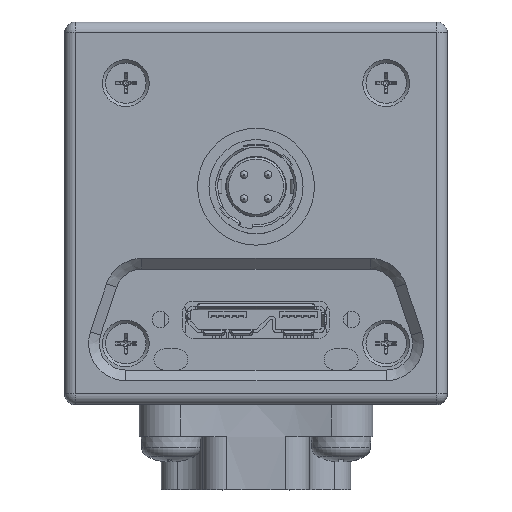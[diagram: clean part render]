
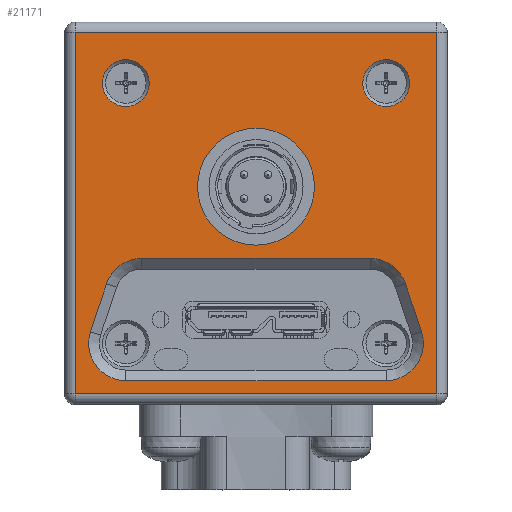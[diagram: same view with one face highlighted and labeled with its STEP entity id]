
A CAD part, top view. The second image highlights one B-rep face of the part: STEP entity #21171.
In plain terms, the highlighted planar face has unit normal (0, 0, 1).
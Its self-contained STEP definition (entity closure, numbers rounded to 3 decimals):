
#704=LINE('',#36027,#2422);
#706=LINE('',#36037,#2424);
#710=LINE('',#36050,#2428);
#714=LINE('',#36056,#2432);
#720=LINE('',#36077,#2438);
#721=LINE('',#36081,#2439);
#722=LINE('',#36085,#2440);
#723=LINE('',#36089,#2441);
#2422=VECTOR('',#26662,10.);
#2424=VECTOR('',#26674,10.);
#2428=VECTOR('',#26690,10.);
#2432=VECTOR('',#26698,10.);
#2438=VECTOR('',#26722,10.);
#2439=VECTOR('',#26725,10.);
#2440=VECTOR('',#26728,10.);
#2441=VECTOR('',#26731,10.);
#4452=FACE_BOUND('',#6275,.T.);
#4453=FACE_BOUND('',#6276,.T.);
#4454=FACE_BOUND('',#6277,.T.);
#4455=FACE_BOUND('',#6278,.T.);
#5014=FACE_OUTER_BOUND('',#6274,.T.);
#6274=EDGE_LOOP('',(#15283,#15284,#15285,#15286));
#6275=EDGE_LOOP('',(#15287));
#6276=EDGE_LOOP('',(#15288));
#6277=EDGE_LOOP('',(#15289));
#6278=EDGE_LOOP('',(#15290,#15291,#15292,#15293,#15294,#15295,#15296,#15297));
#7494=CIRCLE('',#22920,5.5);
#7518=CIRCLE('',#22964,2.2);
#7519=CIRCLE('',#22967,2.2);
#7546=CIRCLE('',#23019,3.5);
#7547=CIRCLE('',#23020,3.5);
#7548=CIRCLE('',#23021,3.5);
#7549=CIRCLE('',#23022,3.5);
#8779=VERTEX_POINT('',#35791);
#8853=VERTEX_POINT('',#35971);
#8854=VERTEX_POINT('',#35975);
#8866=VERTEX_POINT('',#36013);
#8871=VERTEX_POINT('',#36023);
#8872=VERTEX_POINT('',#36030);
#8875=VERTEX_POINT('',#36043);
#8882=VERTEX_POINT('',#36075);
#8883=VERTEX_POINT('',#36076);
#8884=VERTEX_POINT('',#36078);
#8885=VERTEX_POINT('',#36080);
#8886=VERTEX_POINT('',#36082);
#8887=VERTEX_POINT('',#36084);
#8888=VERTEX_POINT('',#36086);
#8889=VERTEX_POINT('',#36088);
#11116=EDGE_CURVE('',#8779,#8779,#7494,.T.);
#11202=EDGE_CURVE('',#8853,#8853,#7518,.T.);
#11203=EDGE_CURVE('',#8854,#8854,#7519,.T.);
#11224=EDGE_CURVE('',#8866,#8871,#704,.T.);
#11229=EDGE_CURVE('',#8872,#8866,#706,.T.);
#11236=EDGE_CURVE('',#8875,#8872,#710,.T.);
#11240=EDGE_CURVE('',#8871,#8875,#714,.T.);
#11250=EDGE_CURVE('',#8882,#8883,#720,.T.);
#11251=EDGE_CURVE('',#8884,#8882,#7546,.T.);
#11252=EDGE_CURVE('',#8885,#8884,#721,.T.);
#11253=EDGE_CURVE('',#8886,#8885,#7547,.T.);
#11254=EDGE_CURVE('',#8887,#8886,#722,.T.);
#11255=EDGE_CURVE('',#8888,#8887,#7548,.T.);
#11256=EDGE_CURVE('',#8889,#8888,#723,.T.);
#11257=EDGE_CURVE('',#8883,#8889,#7549,.T.);
#15283=ORIENTED_EDGE('',*,*,#11224,.F.);
#15284=ORIENTED_EDGE('',*,*,#11229,.F.);
#15285=ORIENTED_EDGE('',*,*,#11236,.F.);
#15286=ORIENTED_EDGE('',*,*,#11240,.F.);
#15287=ORIENTED_EDGE('',*,*,#11116,.T.);
#15288=ORIENTED_EDGE('',*,*,#11202,.T.);
#15289=ORIENTED_EDGE('',*,*,#11203,.T.);
#15290=ORIENTED_EDGE('',*,*,#11250,.F.);
#15291=ORIENTED_EDGE('',*,*,#11251,.F.);
#15292=ORIENTED_EDGE('',*,*,#11252,.F.);
#15293=ORIENTED_EDGE('',*,*,#11253,.F.);
#15294=ORIENTED_EDGE('',*,*,#11254,.F.);
#15295=ORIENTED_EDGE('',*,*,#11255,.F.);
#15296=ORIENTED_EDGE('',*,*,#11256,.F.);
#15297=ORIENTED_EDGE('',*,*,#11257,.F.);
#19239=PLANE('',#23018);
#21171=ADVANCED_FACE('',(#5014,#4452,#4453,#4454,#4455),#19239,.F.);
#22920=AXIS2_PLACEMENT_3D('',#35792,#26442,#26443);
#22964=AXIS2_PLACEMENT_3D('',#35972,#26592,#26593);
#22967=AXIS2_PLACEMENT_3D('',#35976,#26598,#26599);
#23018=AXIS2_PLACEMENT_3D('',#36074,#26720,#26721);
#23019=AXIS2_PLACEMENT_3D('',#36079,#26723,#26724);
#23020=AXIS2_PLACEMENT_3D('',#36083,#26726,#26727);
#23021=AXIS2_PLACEMENT_3D('',#36087,#26729,#26730);
#23022=AXIS2_PLACEMENT_3D('',#36090,#26732,#26733);
#26442=DIRECTION('center_axis',(0.,0.,
-1.));
#26443=DIRECTION('ref_axis',(1.,0.,0.));
#26592=DIRECTION('center_axis',(0.,0.,
-1.));
#26593=DIRECTION('ref_axis',(-1.,0.,0.));
#26598=DIRECTION('center_axis',(0.,0.,
-1.));
#26599=DIRECTION('ref_axis',(-1.,0.,0.));
#26662=DIRECTION('',(-1.,0.,0.));
#26674=DIRECTION('',(0.,-1.,0.));
#26690=DIRECTION('',(1.,0.,0.));
#26698=DIRECTION('',(0.,1.,0.));
#26720=DIRECTION('center_axis',(0.,0.,
-1.));
#26721=DIRECTION('ref_axis',(1.,0.,0.));
#26722=DIRECTION('',(1.,0.,0.));
#26723=DIRECTION('center_axis',(0.,0.,
1.));
#26724=DIRECTION('ref_axis',(-0.949,0.316,0.));
#26725=DIRECTION('',(-0.316,-0.949,0.));
#26726=DIRECTION('center_axis',(0.,0.,
1.));
#26727=DIRECTION('ref_axis',(0.,1.,0.));
#26728=DIRECTION('',(-1.,0.,0.));
#26729=DIRECTION('center_axis',(0.,0.,
1.));
#26730=DIRECTION('ref_axis',(0.949,0.316,0.));
#26731=DIRECTION('',(-0.316,0.949,0.));
#26732=DIRECTION('center_axis',(0.,0.,
1.));
#26733=DIRECTION('ref_axis',(0.,-1.,0.));
#35791=CARTESIAN_POINT('',(5.5,2.5,23.));
#35792=CARTESIAN_POINT('Origin',(0.,2.5,23.));
#35971=CARTESIAN_POINT('',(10.05,12.25,23.));
#35972=CARTESIAN_POINT('Origin',(12.25,12.25,23.));
#35975=CARTESIAN_POINT('',(-14.45,12.25,23.));
#35976=CARTESIAN_POINT('Origin',(-12.25,12.25,23.));
#36013=CARTESIAN_POINT('',(17.,-17.,23.));
#36023=CARTESIAN_POINT('',(-17.,-17.,23.));
#36027=CARTESIAN_POINT('',(-9.,-17.,23.));
#36030=CARTESIAN_POINT('',(17.,17.,23.));
#36037=CARTESIAN_POINT('',(17.,-9.,23.));
#36043=CARTESIAN_POINT('',(-17.,17.,23.));
#36050=CARTESIAN_POINT('',(9.,17.,23.));
#36056=CARTESIAN_POINT('',(-17.,9.,23.));
#36074=CARTESIAN_POINT('Origin',(0.,0.,23.));
#36075=CARTESIAN_POINT('',(-12.25,-15.75,23.));
#36076=CARTESIAN_POINT('',(12.25,-15.75,23.));
#36077=CARTESIAN_POINT('',(0.,-15.75,23.));
#36078=CARTESIAN_POINT('',(-15.57,-11.143,23.));
#36079=CARTESIAN_POINT('Origin',(-12.25,-12.25,23.));
#36080=CARTESIAN_POINT('',(-14.07,-6.643,23.));
#36081=CARTESIAN_POINT('',(-13.12,-3.793,23.));
#36082=CARTESIAN_POINT('',(-10.75,-4.25,23.));
#36083=CARTESIAN_POINT('Origin',(-10.75,-7.75,23.));
#36084=CARTESIAN_POINT('',(10.75,-4.25,23.));
#36085=CARTESIAN_POINT('',(-5.375,-4.25,23.));
#36086=CARTESIAN_POINT('',(14.07,-6.643,23.));
#36087=CARTESIAN_POINT('Origin',(10.75,-7.75,23.));
#36088=CARTESIAN_POINT('',(15.57,-11.143,23.));
#36089=CARTESIAN_POINT('',(12.37,-1.543,23.));
#36090=CARTESIAN_POINT('Origin',(12.25,-12.25,23.));
